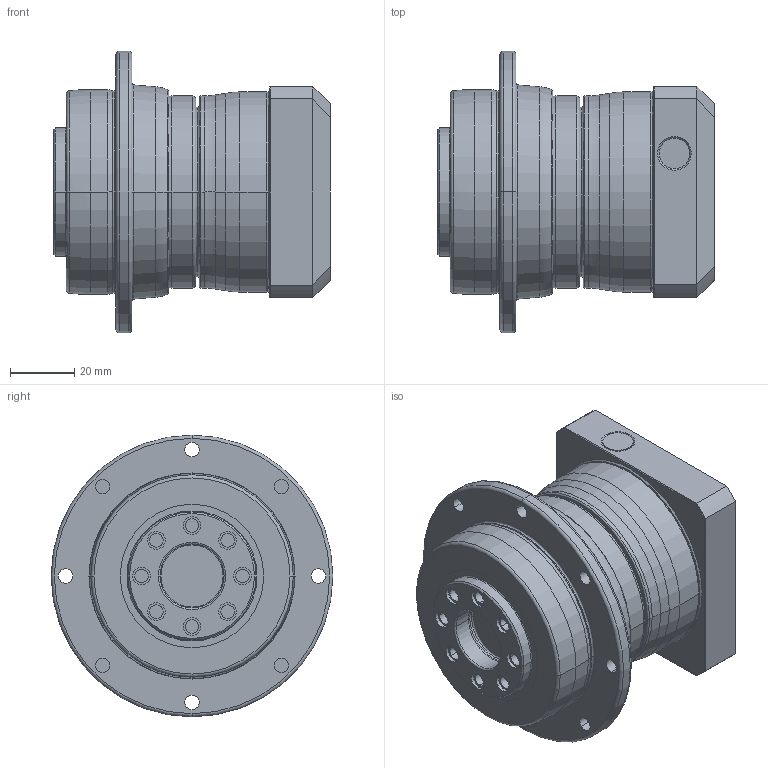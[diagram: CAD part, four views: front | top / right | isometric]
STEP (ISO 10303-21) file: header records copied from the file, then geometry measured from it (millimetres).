
FILE_DESCRIPTION((''),'2;1');
FILE_NAME('PD064_1ST_14-P0411300101_ASM','2016-06-02T',('d01943'),(''),'PRO/ENGINEER BY PARAMETRIC TECHNOLOGY CORPORATION, 2008410','PRO/ENGINEER BY PARAMETRIC TECHNOLOGY CORPORATION, 2008410','');
FILE_SCHEMA(('CONFIG_CONTROL_DESIGN'));
Length unit declared in the file: millimetre
Products named in the file (8): P1355200001; P0367200001; P0274200001; P1324200201; P0411300101; P0503300005; P0941202001; PD064_1ST_14-P0411300101_ASM
Assembly tree (7 placements, depth 2):
  PD064_1ST_14-P0411300101_ASM
    P1355200001
    P0367200001
    P0274200001
    P1324200201
    P0411300101
    P0503300005
    P0941202001
Bounding box: 86.5 x 88 x 88 mm (x, y, z)
Volume: 267173.5 mm3; surface area: 69636.2 mm2
Topology: 7 solids, 7 shells, 371 faces, 845 edges, 500 vertices
Faces by surface type: cylinder 129, cone 90, torus 72, plane 64, bspline 16
Entity records: 14927 total; most frequent: CARTESIAN_POINT 6290, DIRECTION 1941, ORIENTED_EDGE 1654, AXIS2_PLACEMENT_3D 835, EDGE_CURVE 827, VERTEX_POINT 500, CIRCLE 465, EDGE_LOOP 441
